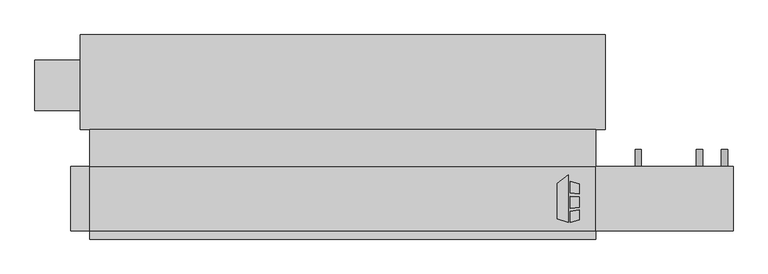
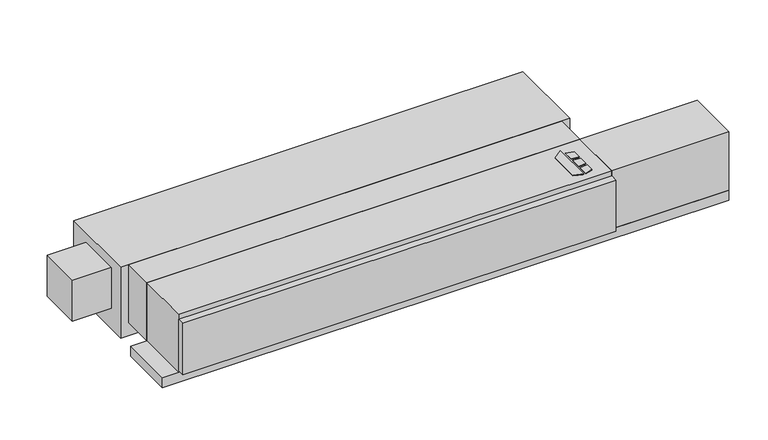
"""IFC4 building model written with IfcOpenShell, lengths in millimetres: proxy geometry, Concealed_Horizontal_Fan_Coil_Unit_With_Plenum_-_CPF_-_IEC_-_4-Pipe_RH : Size 12 - 115v/60Hz/1Ph - 4/1 Coil."""

from ifc_helpers import new_model, si_unit, point, frame, frame_2d, origin, origin_with_axes, place, context, project, spatial, polyline, circle_curve, trimmed, segment, composite_curve, outline, extrude, source, transform, mapped, element, save


def mechanical_equipment_81682098(model_context):
    return source(origin(), model_context, "Body", "SweptSolid", [
        extrude(outline(polyline([(798.2019761, -193.0453476), (830.7602728, -167.6080184), (830.7602728, -309.5625), (798.2019761, -299.3429201), (798.2019761, -193.0453476)])), origin_with_axes(), (0.0, 0.0, 1.0), 3.175),
        extrude(outline(polyline([(837.5186058, -220.917352), (837.5186058, -186.4374379), (863.6, -194.6240115), (863.6, -224.1197446), (837.5186058, -220.917352)])), origin_with_axes(), (0.0, 0.0, 1.0), 3.175),
        extrude(outline(polyline([(863.6, -302.5740115), (837.5186058, -309.5625), (837.5186058, -276.3411996), (863.6, -272.7993564), (863.6, -302.5740115)])), origin_with_axes(), (0.0, 0.0, 1.0), 3.175),
        extrude(outline(polyline([(863.6, -233.2013277), (863.6, -264.451483), (837.5186058, -267.192748), (837.5186058, -231.3350378), (863.6, -233.2013277)])), origin_with_axes(), (0.0, 0.0, 1.0), 3.175),
        extrude(outline(polyline([(-609.6, -30.1625), (914.4, -30.1625), (914.4, -141.2875), (-609.6, -141.2875), (-609.6, -30.1625)])), frame((0.0, 0.0, -215.9), z_axis=(0.0, 0.0, 1.0), x_axis=(1.0, 0.0, 0.0)), (0.0, 0.0, 1.0), 215.9),
        extrude(outline(composite_curve([segment(trimmed(circle_curve(frame_2d((-158.75, 1225.55)), 9.525), [point((-158.75, 1235.075))], [point((-158.75, 1216.025))], False, "CARTESIAN"), True, "CONTINUOUS"), segment(trimmed(circle_curve(frame_2d((-158.75, 1225.55)), 9.525), [point((-158.75, 1216.025))], [point((-158.75, 1235.075))], False, "CARTESIAN"), True, "CONTINUOUS")], self_intersect=False)), frame((0.0, -141.2875, 0.0), z_axis=(0.0, 1.0, 0.0), x_axis=(0.0, 0.0, 1.0)), (0.0, 0.0, 1.0), 50.8),
        extrude(outline(composite_curve([segment(trimmed(circle_curve(frame_2d((-69.85, 1225.55)), 9.525), [point((-69.85, 1235.075))], [point((-69.85, 1216.025))], False, "CARTESIAN"), True, "CONTINUOUS"), segment(trimmed(circle_curve(frame_2d((-69.85, 1225.55)), 9.525), [point((-69.85, 1216.025))], [point((-69.85, 1235.075))], False, "CARTESIAN"), True, "CONTINUOUS")], self_intersect=False)), frame((0.0, -141.2875, 0.0), z_axis=(0.0, 1.0, 0.0), x_axis=(0.0, 0.0, 1.0)), (0.0, 0.0, 1.0), 50.8),
        extrude(outline(composite_curve([segment(trimmed(circle_curve(frame_2d((-69.85, 1041.4)), 9.525), [point((-69.85, 1050.925))], [point((-69.85, 1031.875))], False, "CARTESIAN"), True, "CONTINUOUS"), segment(trimmed(circle_curve(frame_2d((-69.85, 1041.4)), 9.525), [point((-69.85, 1031.875))], [point((-69.85, 1050.925))], False, "CARTESIAN"), True, "CONTINUOUS")], self_intersect=False)), frame((0.0, -141.2875, 0.0), z_axis=(0.0, 1.0, 0.0), x_axis=(0.0, 0.0, 1.0)), (0.0, 0.0, 1.0), 50.8),
        extrude(outline(composite_curve([segment(trimmed(circle_curve(frame_2d((-158.75, 1041.4)), 9.525), [point((-158.75, 1050.925))], [point((-158.75, 1031.875))], False, "CARTESIAN"), True, "CONTINUOUS"), segment(trimmed(circle_curve(frame_2d((-158.75, 1041.4)), 9.525), [point((-158.75, 1031.875))], [point((-158.75, 1050.925))], False, "CARTESIAN"), True, "CONTINUOUS")], self_intersect=False)), frame((0.0, -141.2875, 0.0), z_axis=(0.0, 1.0, 0.0), x_axis=(0.0, 0.0, 1.0)), (0.0, 0.0, 1.0), 50.8),
        extrude(outline(polyline([(1327.15, -141.2875), (1327.15, -334.9625), (914.4, -334.9625), (914.4, -141.2875), (1327.15, -141.2875)])), frame((0.0, 0.0, -215.9), z_axis=(0.0, 0.0, 1.0), x_axis=(1.0, 0.0, 0.0)), (0.0, 0.0, 1.0), 215.9),
        extrude(outline(composite_curve([segment(trimmed(circle_curve(frame_2d((-241.3, 1301.75)), 9.525), [point((-241.3, 1292.225))], [point((-241.3, 1311.275))], False, "CARTESIAN"), True, "CONTINUOUS"), segment(trimmed(circle_curve(frame_2d((-241.3, 1301.75)), 9.525), [point((-241.3, 1311.275))], [point((-241.3, 1292.225))], False, "CARTESIAN"), True, "CONTINUOUS")], self_intersect=False)), frame((0.0, -141.2875, 0.0), z_axis=(0.0, 1.0, 0.0), x_axis=(0.0, 0.0, 1.0)), (0.0, 0.0, 1.0), 50.8),
        extrude(outline(polyline([(914.4, -334.9625), (914.4, -360.3625), (-609.6, -360.3625), (-609.6, -334.9625), (914.4, -334.9625)])), frame((0.0, 0.0, -209.55), z_axis=(0.0, 0.0, 1.0), x_axis=(1.0, 0.0, 0.0)), (0.0, 0.0, 1.0), 190.5),
        extrude(outline(polyline([(914.4, -334.9625), (-609.6, -334.9625), (-609.6, -141.2875), (914.4, -141.2875), (914.4, -334.9625)])), frame((0.0, 0.0, -215.9), z_axis=(0.0, 0.0, 1.0), x_axis=(1.0, 0.0, 0.0)), (0.0, 0.0, 1.0), 215.9),
        extrude(outline(polyline([(1327.15, -141.2875), (1327.15, -334.9625), (-666.75, -334.9625), (-666.75, -141.2875), (1327.15, -141.2875)])), frame((0.0, 0.0, -254.0), z_axis=(0.0, 0.0, 1.0), x_axis=(1.0, 0.0, 0.0)), (0.0, 0.0, 1.0), 38.1),
        extrude(outline(polyline([(-774.7, 26.9875), (-774.7, 179.3875), (-638.175, 179.3875), (-638.175, 26.9875), (-774.7, 26.9875)])), frame((0.0, 0.0, -187.325), z_axis=(0.0, 0.0, 1.0), x_axis=(1.0, 0.0, 0.0)), (0.0, 0.0, 1.0), 152.4),
        extrude(outline(polyline([(-638.175, 255.5875), (942.975, 255.5875), (942.975, -30.1625), (-638.175, -30.1625), (-638.175, 255.5875)])), frame((0.0, 0.0, -263.525), z_axis=(0.0, 0.0, 1.0), x_axis=(1.0, 0.0, 0.0)), (0.0, 0.0, 1.0), 263.525),
    ])


if __name__ == "__main__":
    model = new_model("IFC4")
    model_context = context("Model", 3, world=origin())
    ifc_project = project(units=[si_unit("LENGTHUNIT", "METRE", prefix="MILLI")], contexts=[model_context])
    site = spatial("IfcSite", under=ifc_project)
    building = spatial("IfcBuilding", under=site)
    placement = place(None, origin())
    mechanical_equipment_shape = mechanical_equipment_81682098(model_context)
    element("IfcBuildingElementProxy", 1, Name="Concealed_Horizontal_Fan_Coil_Unit_With_Plenum_-_CPF_-_IEC_-_4-Pipe_RH : Size 12 - 115v/60Hz/1Ph - 4/1 Coil", ObjectType="Concealed_Horizontal_Fan_Coil_Unit_With_Plenum_-_CPF_-_IEC_-_4-Pipe_RH : Size 12 - 115v/60Hz/1Ph - 4/1 Coil", at=placement, inside=building, context=model_context, shape_type="MappedRepresentation", body=[
        mapped(mechanical_equipment_shape, transform((0.0, 0.0, 0.0), x_axis=(1.0, 0.0, 0.0), y_axis=(0.0, 1.0, 0.0), z_axis=(0.0, 0.0, 1.0))),
    ])
    save(model, "model.ifc")
